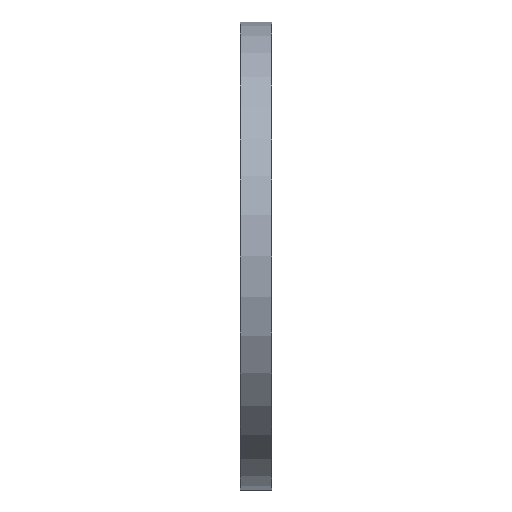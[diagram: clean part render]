
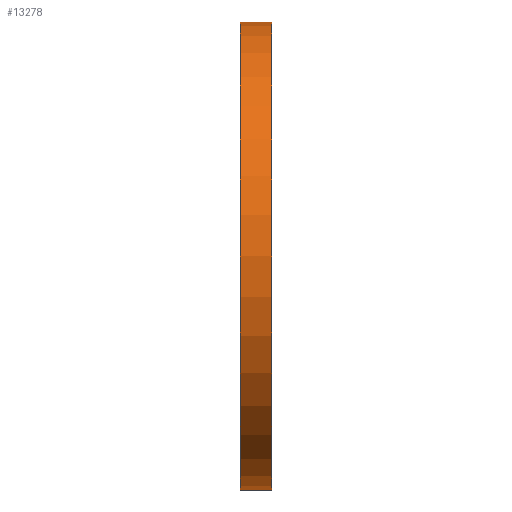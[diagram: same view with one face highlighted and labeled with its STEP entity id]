
A CAD part, front view. The second image highlights one B-rep face of the part: STEP entity #13278.
In plain terms, the highlighted cylindrical face has radius 75 mm (diameter 150 mm), a partial arc.
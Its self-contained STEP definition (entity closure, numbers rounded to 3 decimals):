
#6=CARTESIAN_POINT('',(-5.,0.,0.));
#7=DIRECTION('',(1.,0.,0.));
#8=DIRECTION('',(0.,0.,1.));
#9=AXIS2_PLACEMENT_3D('',#6,#7,#8);
#3211=DIRECTION('',(1.,0.,0.));
#3212=VECTOR('',#3211,10.);
#3213=CARTESIAN_POINT('',(-5.,0.,-75.));
#3214=LINE('',#3213,#3212);
#3215=DIRECTION('',(1.,0.,0.));
#3216=VECTOR('',#3215,10.);
#3217=CARTESIAN_POINT('',(-5.,0.,75.));
#3218=LINE('',#3217,#3216);
#3224=CARTESIAN_POINT('',(5.,0.,0.));
#3225=DIRECTION('',(1.,0.,0.));
#3226=DIRECTION('',(0.,0.,1.));
#3227=AXIS2_PLACEMENT_3D('',#3224,#3225,#3226);
#9829=CARTESIAN_POINT('',(-5.,0.,-75.));
#9830=CARTESIAN_POINT('',(-5.,0.,75.));
#9831=VERTEX_POINT('',#9829);
#9832=VERTEX_POINT('',#9830);
#9833=CARTESIAN_POINT('',(5.,0.,-75.));
#9834=CARTESIAN_POINT('',(5.,0.,75.));
#9835=VERTEX_POINT('',#9833);
#9836=VERTEX_POINT('',#9834);
#13266=CARTESIAN_POINT('',(-5.,0.,0.));
#13267=DIRECTION('',(1.,0.,0.));
#13268=DIRECTION('',(0.,0.,-1.));
#13269=AXIS2_PLACEMENT_3D('',#13266,#13267,#13268);
#13270=CYLINDRICAL_SURFACE('',#13269,75.);
#13271=ORIENTED_EDGE('',*,*,#12044,.F.);
#13272=ORIENTED_EDGE('',*,*,#13261,.T.);
#13274=ORIENTED_EDGE('',*,*,#13273,.T.);
#13275=ORIENTED_EDGE('',*,*,#13257,.F.);
#13276=EDGE_LOOP('',(#13271,#13272,#13274,#13275));
#13277=FACE_OUTER_BOUND('',#13276,.F.);
#13278=ADVANCED_FACE('',(#13277),#13270,.T.);
#10=CIRCLE('',#9,75.);
#3228=CIRCLE('',#3227,75.);
#12044=EDGE_CURVE('',#9832,#9831,#10,.T.);
#13257=EDGE_CURVE('',#9831,#9835,#3214,.T.);
#13261=EDGE_CURVE('',#9832,#9836,#3218,.T.);
#13273=EDGE_CURVE('',#9836,#9835,#3228,.T.);
